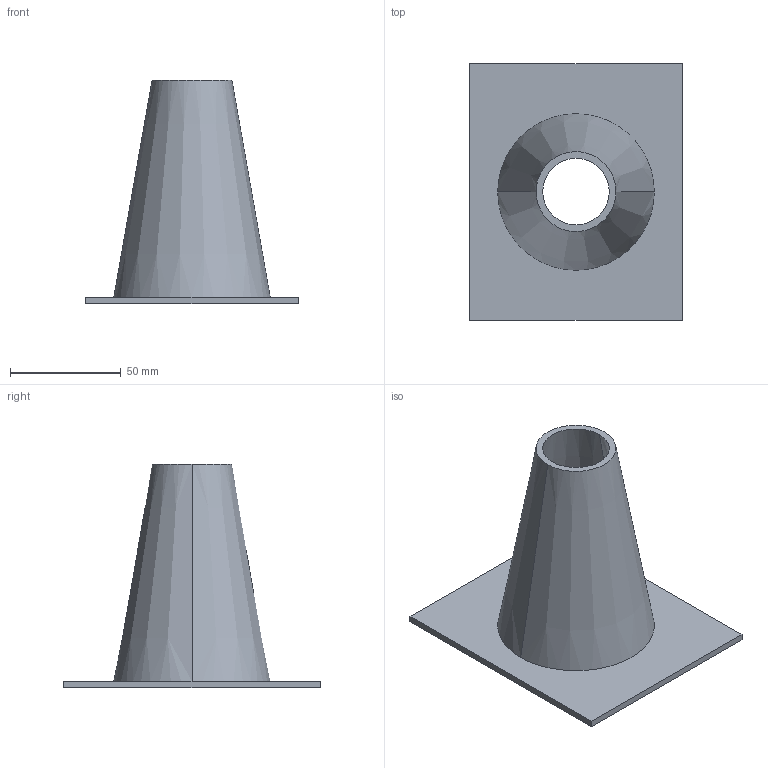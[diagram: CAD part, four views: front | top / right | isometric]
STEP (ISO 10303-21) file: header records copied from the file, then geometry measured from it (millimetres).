
FILE_DESCRIPTION(('CATIA V5 STEP Exchange'),'2;1');
FILE_NAME('C:\_Andres\UNIVERSIDAD\IQS\ASIGNATURAS\DAO\EXF\EXF-15161c\1original\Esteva_Esteve_Ej08-ensambla_v6.stp','2016-03-04T21:37:15+00:00',('none'),('none'),'CATIA Version 5 Release 20 SP 1 (IN-10)','CATIA V5 STEP AP203','none');
FILE_SCHEMA(('CONFIG_CONTROL_DESIGN'));
Length unit declared in the file: millimetre
Products named in the file (1): Esteva_Esteve_Ej08-ensambla_v6
Bounding box: 96 x 116 x 101 mm (x, y, z)
Volume: 70625.2 mm3; surface area: 48647.5 mm2
Topology: 1 solids, 1 shells, 11 faces, 24 edges, 16 vertices
Faces by surface type: plane 7, cone 4
Entity records: 414 total; most frequent: CARTESIAN_POINT 127, ORIENTED_EDGE 48, DIRECTION 44, EDGE_CURVE 24, AXIS2_PLACEMENT_3D 17, VECTOR 16, LINE 16, VERTEX_POINT 16
